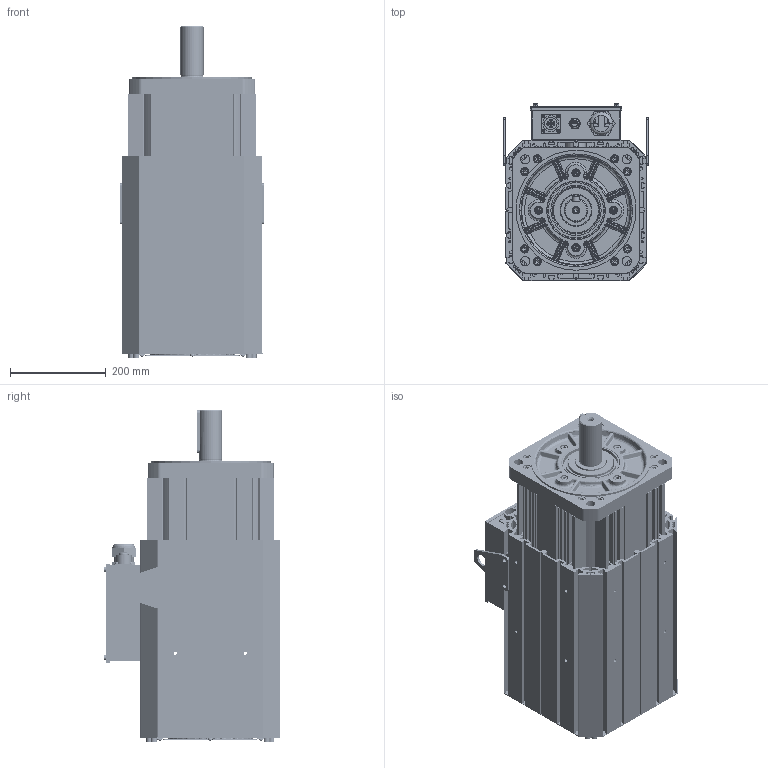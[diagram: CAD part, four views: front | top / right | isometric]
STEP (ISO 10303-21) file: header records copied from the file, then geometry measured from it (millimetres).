
FILE_DESCRIPTION (( 'STEP AP214' ), '1' );
FILE_NAME ('VM7-M26D-03015-D1FNH.STEP', '2022-04-02T01:07:56', ( '' ), ( '' ), 'SwSTEP 2.0', 'SolidWorks 2014', '' );
FILE_SCHEMA (( 'AUTOMOTIVE_DESIGN' ));
Length unit declared in the file: millimetre
Products named in the file (3): 翋极; VM7-M26D-03015-D1FNH; 俋褲
Assembly tree (2 placements, depth 2):
  VM7-M26D-03015-D1FNH
    翋极
    俋褲
Bounding box: 302 x 368.5 x 692 mm (x, y, z)
Volume: 10761041.7 mm3; surface area: 3770466.6 mm2
Topology: 121 solids, 121 shells, 4424 faces, 11332 edges, 7180 vertices
Faces by surface type: plane 2589, cylinder 1089, bspline 445, cone 301
Entity records: 152537 total; most frequent: CARTESIAN_POINT 45517, ORIENTED_EDGE 22412, DIRECTION 21208, EDGE_CURVE 11206, LINE 7212, VECTOR 7212, VERTEX_POINT 7180, AXIS2_PLACEMENT_3D 6998
